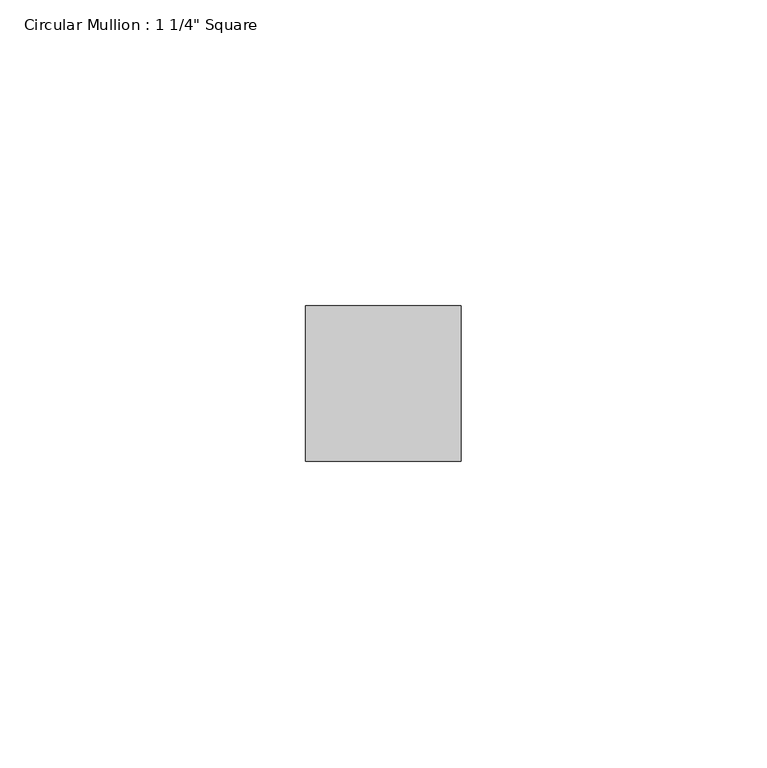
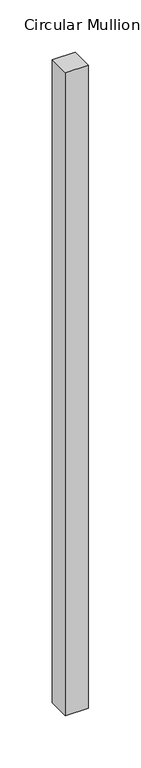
"""IFC4 building model written with IfcOpenShell, lengths in millimetres: member geometry."""

from ifc_helpers import new_model, si_unit, frame, origin, place, context, project, spatial, polyline, outline, extrude, source, transform, mapped, element, save


def member_f0929a5d(model_context):
    return source(origin(), model_context, "Body", "SweptSolid", [
        extrude(outline(polyline([(0.0, 12.7), (0.0, -12.7), (-25.4, -12.7), (-25.4, 12.7), (0.0, 12.7)])), frame((0.0, 0.0, -752.2986217), z_axis=(0.0, 0.0, 1.0), x_axis=(1.0, 0.0, 0.0)), (0.0, 0.0, 1.0), 752.2986217),
    ])


if __name__ == "__main__":
    model = new_model("IFC4")
    model_context = context("Model", 3, world=origin())
    ifc_project = project(units=[si_unit("LENGTHUNIT", "METRE", prefix="MILLI")], contexts=[model_context])
    site = spatial("IfcSite", under=ifc_project)
    building = spatial("IfcBuilding", under=site)
    placement = place(None, origin())
    member_shape = member_f0929a5d(model_context)
    element("IfcMember", 1, ObjectType="Circular Mullion : 1 1/4\" Square", at=placement, inside=building, context=model_context, shape_type="MappedRepresentation", body=[
        mapped(member_shape, transform((0.0, 0.0, 0.0), x_axis=(1.0, 0.0, 0.0), y_axis=(0.0, 1.0, 0.0), z_axis=(0.0, 0.0, 1.0))),
    ])
    save(model, "model.ifc")
